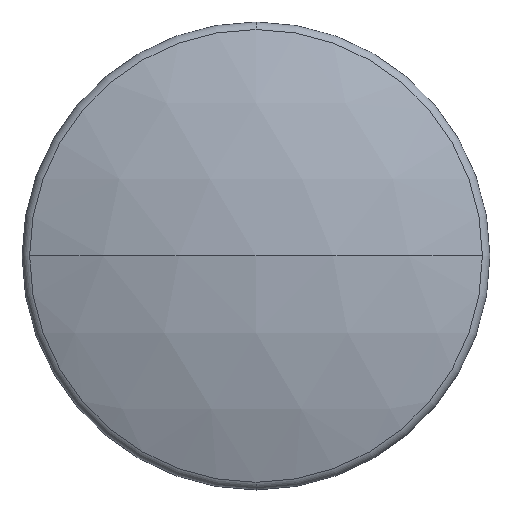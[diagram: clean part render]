
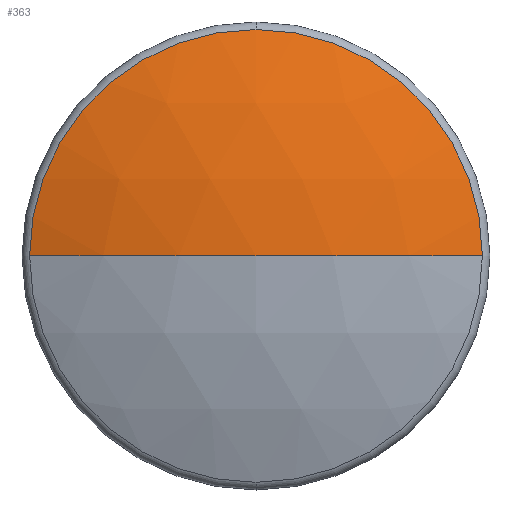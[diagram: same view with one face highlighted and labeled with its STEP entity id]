
A CAD part, top view. The second image highlights one B-rep face of the part: STEP entity #363.
In plain terms, the highlighted spherical face has radius 54.532 mm.
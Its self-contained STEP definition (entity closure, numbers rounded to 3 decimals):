
#150 = AXIS2_PLACEMENT_3D ( 'NONE', #1219, #1222, #1226 ) ;
#197 = AXIS2_PLACEMENT_3D ( 'NONE', #1253, #1266, #1267 ) ;
#228 = AXIS2_PLACEMENT_3D ( 'NONE', #923, #555, #442 ) ;
#276 = AXIS2_PLACEMENT_3D ( 'NONE', #603, #577, #647 ) ;
#279 = AXIS2_PLACEMENT_3D ( 'NONE', #901, #889, #660 ) ;
#363 = ADVANCED_FACE ( 'NONE', ( #2676 ), #2673, .T. ) ;
#402 = CARTESIAN_POINT ( 'NONE',  ( -19.355, 0., 29.45 ) ) ;
#429 = CARTESIAN_POINT ( 'NONE',  ( 0., 19.355, 29.45 ) ) ;
#442 = DIRECTION ( 'NONE',  ( 1., 0., 0. ) ) ;
#478 = CARTESIAN_POINT ( 'NONE',  ( 19.355, 0., 29.45 ) ) ;
#555 = DIRECTION ( 'NONE',  ( 0., -1., 0. ) ) ;
#577 = DIRECTION ( 'NONE',  ( 0., 1., 0. ) ) ;
#603 = CARTESIAN_POINT ( 'NONE',  ( 0., 0., -21.532 ) ) ;
#647 = DIRECTION ( 'NONE',  ( -1., 0., 0. ) ) ;
#660 = DIRECTION ( 'NONE',  ( 0., 1., 0. ) ) ;
#889 = DIRECTION ( 'NONE',  ( 0., 0., 1. ) ) ;
#890 = CARTESIAN_POINT ( 'NONE',  ( 0., 0., 33. ) ) ;
#901 = CARTESIAN_POINT ( 'NONE',  ( 0., 0., 29.45 ) ) ;
#923 = CARTESIAN_POINT ( 'NONE',  ( 0., 0., -21.532 ) ) ;
#998 = EDGE_CURVE ( 'NONE', #1915, #1851, #2747, .T. ) ;
#1064 = EDGE_CURVE ( 'NONE', #1771, #1898, #2796, .T. ) ;
#1219 = CARTESIAN_POINT ( 'NONE',  ( 0., 0., -21.532 ) ) ;
#1222 = DIRECTION ( 'NONE',  ( 0., -1., 0. ) ) ;
#1226 = DIRECTION ( 'NONE',  ( -1., 0., 0. ) ) ;
#1253 = CARTESIAN_POINT ( 'NONE',  ( 0., 0., 29.45 ) ) ;
#1266 = DIRECTION ( 'NONE',  ( 0., 0., 1. ) ) ;
#1267 = DIRECTION ( 'NONE',  ( 0., 1., 0. ) ) ;
#1771 = VERTEX_POINT ( 'NONE', #478 ) ;
#1851 = VERTEX_POINT ( 'NONE', #402 ) ;
#1898 = VERTEX_POINT ( 'NONE', #890 ) ;
#1915 = VERTEX_POINT ( 'NONE', #429 ) ;
#1961 = EDGE_LOOP ( 'NONE', ( #2168, #2143, #2139, #2130 ) ) ;
#2130 = ORIENTED_EDGE ( 'NONE', *, *, #2995, .T. ) ;
#2139 = ORIENTED_EDGE ( 'NONE', *, *, #998, .T. ) ;
#2143 = ORIENTED_EDGE ( 'NONE', *, *, #2996, .T. ) ;
#2168 = ORIENTED_EDGE ( 'NONE', *, *, #1064, .F. ) ;
#2673 = SPHERICAL_SURFACE ( 'NONE', #150, 54.532 ) ;
#2676 = FACE_OUTER_BOUND ( 'NONE', #1961, .T. ) ;
#2747 = CIRCLE ( 'NONE', #197, 19.355 ) ;
#2796 = CIRCLE ( 'NONE', #228, 54.532 ) ;
#2884 = CIRCLE ( 'NONE', #276, 54.532 ) ;
#2885 = CIRCLE ( 'NONE', #279, 19.355 ) ;
#2995 = EDGE_CURVE ( 'NONE', #1851, #1898, #2884, .T. ) ;
#2996 = EDGE_CURVE ( 'NONE', #1771, #1915, #2885, .T. ) ;
